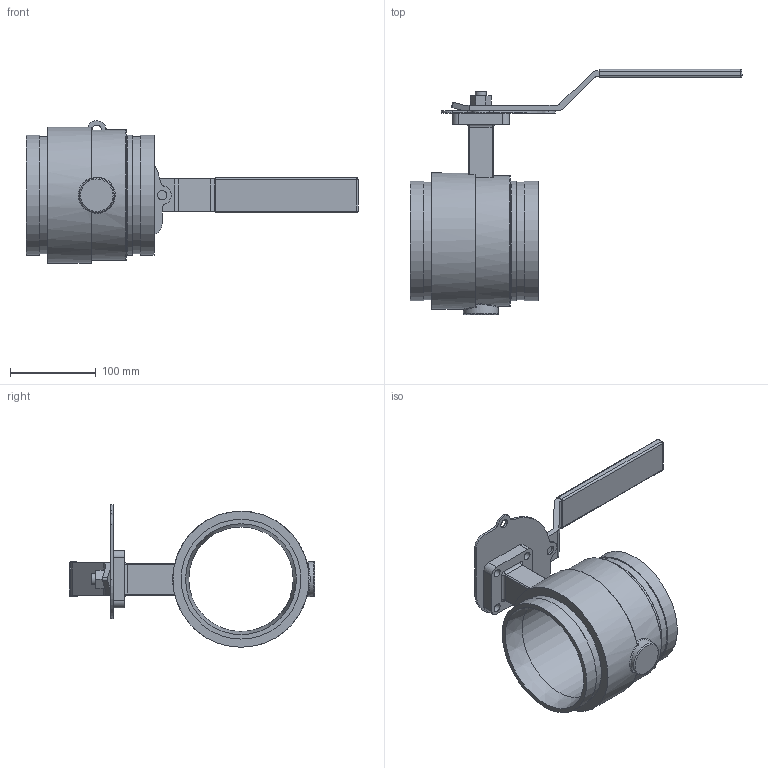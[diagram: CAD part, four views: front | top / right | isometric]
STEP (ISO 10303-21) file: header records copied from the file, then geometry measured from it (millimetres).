
FILE_DESCRIPTION(/* description */ ('Vic Series 461 Vic-300 SS w/ Lever Handle Butterfly Valve','CAx-IF Rec.Pracs.---Representation and Presentation of Product Manufacturing Information (PMI)---4.0---2014-10-13'),/* implementation_level */ '2;1');
FILE_NAME(/* name */ 'C:\Users\kkamble\AppData\Roaming\Autodesk\ApplicationPlugins\Back Up\Victaulic_SS-OGS_Valve Butterfly Vic-300 Masterseal Lever Handle_Series 461 (OGS)\Victaulic_SS-OGS_Valve Butterfly Vic-300 Masterseal Lever Handle_05.0 (139.7) (125).stp',/* time_stamp */ '2020-09-02T14:52:30+05:00',/* author */ ('jbrannon'),/* organization */ ('Victaulic'),/* preprocessor_version */ 'ST-DEVELOPER v17.2',/* originating_system */ 'Autodesk Inventor 2019',/* authorisation */ '');
FILE_SCHEMA (('AP242_MANAGED_MODEL_BASED_3D_ENGINEERING_MIM_LF { 1 0 10303 442 1 1 4 }'));
Length unit declared in the file: inch
Products named in the file (4): 461-05.0 (139.7); 461-05.0(139.7); 461-02.0; 461-05.0
Assembly tree (3 placements, depth 2):
  461-05.0 (139.7)
    461-05.0(139.7)
    461-02.0
    461-05.0
Bounding box: 387.34 x 286.01 x 166.24 mm (x, y, z)
Volume: 1116501.7 mm3; surface area: 226134 mm2
Topology: 3 solids, 3 shells, 154 faces, 385 edges, 245 vertices
Faces by surface type: cylinder 66, plane 53, bspline 14, torus 13, sphere 6, cone 2
Full cylindrical faces by diameter (mm): 9.652 x8, 10.668 x2, 12.7 x2, 18.288 x1, 40.64 x1, 54.102 x1, 121.92 x1, 137.033 x2, 139.7 x3, 152.4 x1, 158.75 x1
Entity records: 5512 total; most frequent: CARTESIAN_POINT 1398, DIRECTION 827, ORIENTED_EDGE 766, EDGE_CURVE 383, AXIS2_PLACEMENT_3D 328, VERTEX_POINT 245, EDGE_LOOP 190, CIRCLE 181
